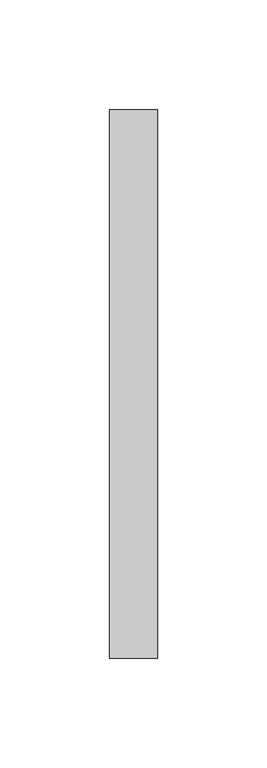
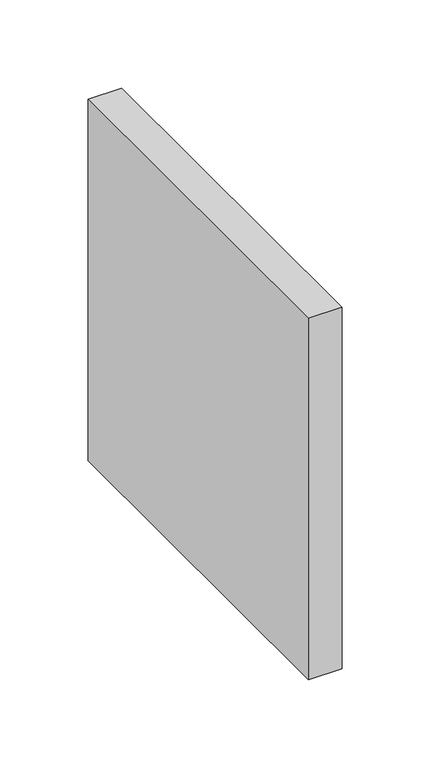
"""IFC4 building model written with IfcOpenShell, lengths in millimetres: duct fitting geometry, MEP_15.03 Injerto Conducte : Mínimo."""

import ifcopenshell
import ifcopenshell.guid

model = None  # the IFC model being written
_history = None  # IfcOwnerHistory: only IFC2X3 demands one
_inside = {}  # id of a spatial element -> (the spatial element, [elements in it])
_under = {}  # id of a project, library or spatial element -> (it, [spatial elements below it])
_declared = {}  # id of a project -> (the project, [libraries it declares])
_typed = {}  # id of a type object -> (the type object, [elements of that type])
_made_of = {}  # id of a material, layer set ... -> (it, [elements and type objects made of it])


def new_model(schema):
    """Start an empty IFC model of exactly this schema.

    Asked for "IFC4X3", IfcOpenShell would pick the latest addendum, in which some entities
    have other attributes; the version numbers below select the first issue.
    IFC2X3 requires an IfcOwnerHistory on every rooted entity: one is made here for all.
    """
    global model, _history
    if schema == "IFC4X3":
        model = ifcopenshell.file(schema_version=(4, 3, 0, 0))
    else:
        model = ifcopenshell.file(schema=schema)
    _inside.clear()
    _under.clear()
    _declared.clear()
    _typed.clear()
    _made_of.clear()
    _history = None
    if model.schema == "IFC2X3":
        org = make("IfcOrganization", Name="unknown")
        user = make(
            "IfcPersonAndOrganization",
            ThePerson=make("IfcPerson", FamilyName="unknown"),
            TheOrganization=org,
        )
        app = make(
            "IfcApplication",
            ApplicationDeveloper=org,
            Version="unknown",
            ApplicationFullName="unknown",
            ApplicationIdentifier="unknown",
        )
        _history = make(
            "IfcOwnerHistory",
            OwningUser=user,
            OwningApplication=app,
            ChangeAction="ADDED",
            CreationDate=0,
        )
    return model


def make(cls, **values):
    """One entity of the class cls with the attributes given. An attribute that is None is left unset."""
    return model.create_entity(
        cls, **{name: value for name, value in values.items() if value is not None}
    )


def rooted(cls, **values):
    """An entity with a GlobalId (a new one), such as an element, a storey or a relation."""
    return make(cls, GlobalId=ifcopenshell.guid.new(), OwnerHistory=_history, **values)


def si_unit(unit_type, name, prefix=None):
    """IfcSIUnit, for example si_unit("LENGTHUNIT", "METRE", prefix="MILLI")."""
    return make("IfcSIUnit", UnitType=unit_type, Prefix=prefix, Name=name)


def assignment(units):
    """IfcUnitAssignment: the units of a project."""
    return None if units is None else make("IfcUnitAssignment", Units=units)


def point(xyz):
    """IfcCartesianPoint."""
    return None if xyz is None else make("IfcCartesianPoint", Coordinates=xyz)


def direction(xyz):
    """IfcDirection."""
    return None if xyz is None else make("IfcDirection", DirectionRatios=xyz)


def frame(location, z_axis=None, x_axis=None):
    """IfcAxis2Placement3D, a coordinate frame: its origin and axes. An axis left out is left unset."""
    return make(
        "IfcAxis2Placement3D",
        Location=point(location),
        Axis=direction(z_axis),
        RefDirection=direction(x_axis),
    )


def origin():
    """The frame at (0, 0, 0) with its axes left unset."""
    return frame((0.0, 0.0, 0.0))


def place(relative_to, where):
    """IfcLocalPlacement: puts the frame where relative to a parent placement (None: the world)."""
    return make(
        "IfcLocalPlacement", PlacementRelTo=relative_to, RelativePlacement=where
    )


def context(
    kind, dimensions, precision=None, world=None, true_north=None, identifier=None
):
    """IfcGeometricRepresentationContext, for example the 3D "Model" context."""
    return make(
        "IfcGeometricRepresentationContext",
        ContextIdentifier=identifier,
        ContextType=kind,
        CoordinateSpaceDimension=dimensions,
        Precision=precision,
        WorldCoordinateSystem=world,
        TrueNorth=true_north,
    )


def project(units=None, contexts=None):
    """IfcProject with its units and contexts."""
    return rooted(
        "IfcProject",
        Name="project",
        RepresentationContexts=contexts,
        UnitsInContext=assignment(units),
    )


def spatial(cls, under=None, at=None, **own):
    """A site, building, storey or space (cls), placed at a placement, below another one or the project."""
    s = rooted(cls, ObjectPlacement=at, **own)
    if under is not None:
        _under.setdefault(under.id(), (under, []))[1].append(s)
    return s


def polyline(points):
    """IfcPolyline through the points."""
    return make("IfcPolyline", Points=[point(p) for p in points])


def outline(outer, holes=None, kind="AREA"):
    """IfcArbitraryClosedProfileDef: a profile drawn as a closed curve; with holes, ...WithVoids."""
    if holes is None:
        return make("IfcArbitraryClosedProfileDef", ProfileType=kind, OuterCurve=outer)
    return make(
        "IfcArbitraryProfileDefWithVoids",
        ProfileType=kind,
        OuterCurve=outer,
        InnerCurves=holes,
    )


def extrude(swept, where, along, depth):
    """IfcExtrudedAreaSolid: the profile swept, set in the frame where, extruded along a direction by depth."""
    return make(
        "IfcExtrudedAreaSolid",
        SweptArea=swept,
        Position=where,
        ExtrudedDirection=direction(along),
        Depth=depth,
    )


def shape(context_of_items, identifier, shape_type, items):
    """IfcShapeRepresentation: the items that make up one representation, for example the "Body"."""
    return make(
        "IfcShapeRepresentation",
        ContextOfItems=context_of_items,
        RepresentationIdentifier=identifier,
        RepresentationType=shape_type,
        Items=items,
    )


def source(mapping_origin, context_of_items, identifier, shape_type, items):
    """IfcRepresentationMap: a shape defined once, which mapped items show again and again."""
    return make(
        "IfcRepresentationMap",
        MappingOrigin=mapping_origin,
        MappedRepresentation=shape(context_of_items, identifier, shape_type, items),
    )


def transform(
    local_origin,
    x_axis=None,
    y_axis=None,
    z_axis=None,
    scale=None,
    scale2=None,
    scale3=None,
    uniform=True,
):
    """IfcCartesianTransformationOperator3D, or its non-uniform kind. x_axis, y_axis, z_axis: its Axis1, 2, 3."""
    if uniform:
        return make(
            "IfcCartesianTransformationOperator3D",
            Axis1=direction(x_axis),
            Axis2=direction(y_axis),
            LocalOrigin=point(local_origin),
            Scale=scale,
            Axis3=direction(z_axis),
        )
    return make(
        "IfcCartesianTransformationOperator3DnonUniform",
        Axis1=direction(x_axis),
        Axis2=direction(y_axis),
        LocalOrigin=point(local_origin),
        Scale=scale,
        Axis3=direction(z_axis),
        Scale2=scale2,
        Scale3=scale3,
    )


def mapped(mapping_source, mapping_target):
    """IfcMappedItem: shows the shape of a source again, moved by a transform."""
    return make(
        "IfcMappedItem", MappingSource=mapping_source, MappingTarget=mapping_target
    )


def made_of(thing, what):
    """Note that an element or type object is made of a material, layer set ...; save() writes the relation."""
    if what is not None:
        _made_of.setdefault(what.id(), (what, []))[1].append(thing)
    return thing


def element(
    cls,
    number,
    at=None,
    inside=None,
    cuts=None,
    type_object=None,
    material=None,
    context=None,
    identifier="Body",
    shape_type=None,
    held_by="IfcProductDefinitionShape",
    body=None,
    shapes=None,
    **own,
):
    """One element of the class cls, such as IfcWall. Its Tag is "e" and its number.

    at: its placement. inside: the storey or other place that contains it. cuts: it is an
    opening in that element (IfcRelVoidsElement). A single representation is given by context,
    identifier, shape_type and body (its items); several are given by shapes. held_by: the class
    of the entity that holds the representations. save() writes the other relations.
    """
    e = rooted(cls, Tag="e%d" % number, ObjectPlacement=at, **own)
    if body is not None:
        shapes = [shape(context, identifier, shape_type, body)]
    if shapes is not None:
        e.Representation = make(held_by, Representations=shapes)
    if inside is not None:
        _inside.setdefault(inside.id(), (inside, []))[1].append(e)
    if cuts is not None:
        rooted(
            "IfcRelVoidsElement", RelatingBuildingElement=cuts, RelatedOpeningElement=e
        )
    if type_object is not None:
        _typed.setdefault(type_object.id(), (type_object, []))[1].append(e)
    return made_of(e, material)


def aggregate(whole, parts):
    """IfcRelAggregates: a whole, such as a stair, and the parts it consists of."""
    return rooted("IfcRelAggregates", RelatingObject=whole, RelatedObjects=parts)


def save(model, path):
    """Write the relations noted so far, then the file.

    IfcRelAggregates (storeys below a building ...), IfcRelContainedInSpatialStructure (elements
    in a storey), IfcRelDefinesByType, IfcRelAssociatesMaterial and IfcRelDeclares: one each for
    every whole, place, type object, material and project.
    """
    for whole, parts in _under.values():
        aggregate(whole, parts)
    for where, things in _inside.values():
        rooted(
            "IfcRelContainedInSpatialStructure",
            RelatedElements=things,
            RelatingStructure=where,
        )
    for kind, things in _typed.values():
        rooted("IfcRelDefinesByType", RelatedObjects=things, RelatingType=kind)
    for what, things in _made_of.values():
        rooted("IfcRelAssociatesMaterial", RelatedObjects=things, RelatingMaterial=what)
    for by, libraries in _declared.values():
        rooted("IfcRelDeclares", RelatingContext=by, RelatedDefinitions=libraries)
    model.write(path)


def duct_fitting_4395bc04(model_context):
    return source(origin(), model_context, "Body", "SweptSolid", [
        extrude(outline(polyline([(-6.4573134, -125.0), (-6.4573134, 125.0), (15.3613134, 125.0), (15.3613134, -125.0), (-6.4573134, -125.0)])), frame((0.0, 0.0, -125.0), z_axis=(0.0, 0.0, 1.0), x_axis=(1.0, 0.0, 0.0)), (0.0, 0.0, 1.0), 250.0),
    ])


if __name__ == "__main__":
    model = new_model("IFC4")
    model_context = context("Model", 3, world=origin())
    ifc_project = project(units=[si_unit("LENGTHUNIT", "METRE", prefix="MILLI")], contexts=[model_context])
    site = spatial("IfcSite", under=ifc_project)
    building = spatial("IfcBuilding", under=site)
    placement = place(None, origin())
    duct_fitting_shape = duct_fitting_4395bc04(model_context)
    element("IfcDuctFitting", 1, ObjectType="MEP_15.03 Injerto Conducte : Mínimo", at=placement, inside=building, context=model_context, shape_type="MappedRepresentation", body=[
        mapped(duct_fitting_shape, transform((0.0, 0.0, 0.0), x_axis=(1.0, 0.0, 0.0), y_axis=(0.0, 1.0, 0.0), z_axis=(0.0, 0.0, 1.0))),
    ])
    save(model, "model.ifc")
